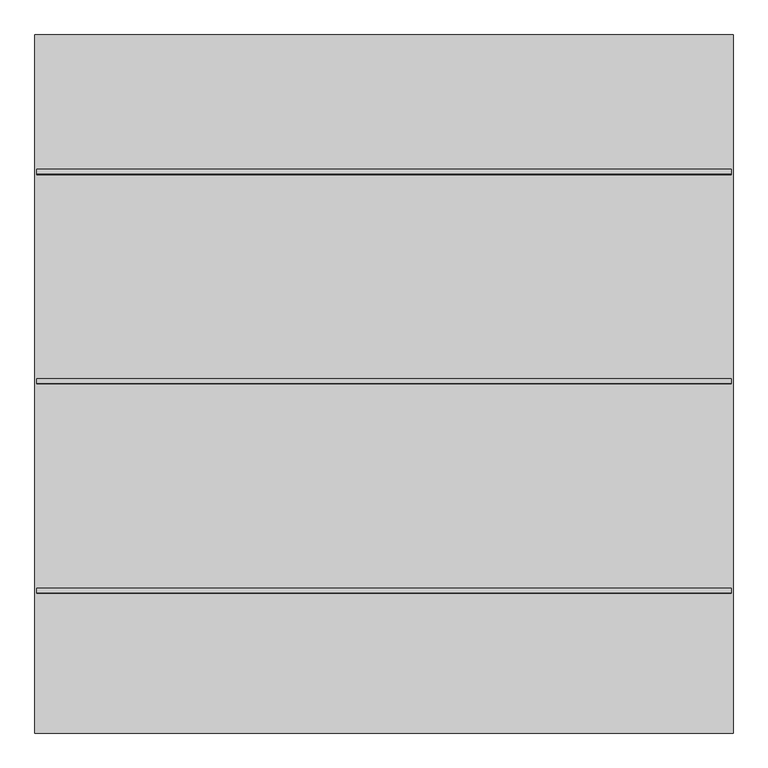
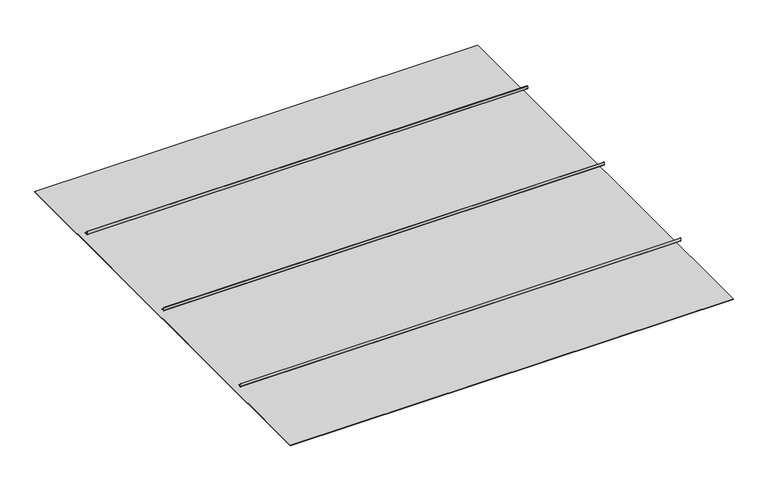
"""IFC4 building model written with IfcOpenShell, lengths in millimetres: proxy geometry, durlum_LOOP_TYPE3 : durlum_LOOP_TYPE3."""

from ifc_helpers import new_model, si_unit, point, frame, frame_2d, origin, place, context, project, spatial, polyline, circle_curve, trimmed, segment, composite_curve, outline, extrude, source, transform, mapped, element, save


def generic_models_72de8b23(model_context):
    return source(origin(), model_context, "Body", "SweptSolid", [
        extrude(outline(composite_curve([segment(polyline([(2.0, 1804.9), (2.0, 1779.0)]), True, "CONTINUOUS"), segment(trimmed(circle_curve(frame_2d((4.0, 1779.0)), 2.0), [point((2.0, 1779.0))], [point((4.0, 1777.0))], True, "CARTESIAN"), True, "CONTINUOUS"), segment(polyline([(4.0, 1777.0), (29.9, 1777.0), (29.9, 1775.0), (4.0, 1775.0)]), True, "CONTINUOUS"), segment(trimmed(circle_curve(frame_2d((4.0, 1779.0)), 4.0), [point((4.0, 1775.0))], [point((0.0, 1779.0))], False, "CARTESIAN"), True, "CONTINUOUS"), segment(polyline([(0.0, 1779.0), (0.0, 1804.9), (2.0, 1804.9)]), True, "CONTINUOUS")], self_intersect=False)), frame((-1990.0, 0.0, 0.0), z_axis=(1.0, 0.0, 0.0), x_axis=(0.0, 1.0, 0.0)), (0.0, 0.0, 1.0), 3980.0),
        extrude(outline(composite_curve([segment(polyline([(1202.0, 1804.9), (1202.0, 1779.0)]), True, "CONTINUOUS"), segment(trimmed(circle_curve(frame_2d((1204.0, 1779.0)), 2.0), [point((1202.0, 1779.0))], [point((1204.0, 1777.0))], True, "CARTESIAN"), True, "CONTINUOUS"), segment(polyline([(1204.0, 1777.0), (1229.9, 1777.0), (1229.9, 1775.0), (1204.0, 1775.0)]), True, "CONTINUOUS"), segment(trimmed(circle_curve(frame_2d((1204.0, 1779.0)), 4.0), [point((1204.0, 1775.0))], [point((1200.0, 1779.0))], False, "CARTESIAN"), True, "CONTINUOUS"), segment(polyline([(1200.0, 1779.0), (1200.0, 1804.9), (1202.0, 1804.9)]), True, "CONTINUOUS")], self_intersect=False)), frame((-1990.0, 0.0, 0.0), z_axis=(1.0, 0.0, 0.0), x_axis=(0.0, 1.0, 0.0)), (0.0, 0.0, 1.0), 3980.0),
        extrude(outline(composite_curve([segment(polyline([(-1198.0, 1804.9), (-1198.0, 1779.0)]), True, "CONTINUOUS"), segment(trimmed(circle_curve(frame_2d((-1196.0, 1779.0)), 2.0), [point((-1198.0, 1779.0))], [point((-1196.0, 1777.0))], True, "CARTESIAN"), True, "CONTINUOUS"), segment(polyline([(-1196.0, 1777.0), (-1170.1, 1777.0), (-1170.1, 1775.0), (-1196.0, 1775.0)]), True, "CONTINUOUS"), segment(trimmed(circle_curve(frame_2d((-1196.0, 1779.0)), 4.0), [point((-1196.0, 1775.0))], [point((-1200.0, 1779.0))], False, "CARTESIAN"), True, "CONTINUOUS"), segment(polyline([(-1200.0, 1779.0), (-1200.0, 1804.9), (-1198.0, 1804.9)]), True, "CONTINUOUS")], self_intersect=False)), frame((-1990.0, 0.0, 0.0), z_axis=(1.0, 0.0, 0.0), x_axis=(0.0, 1.0, 0.0)), (0.0, 0.0, 1.0), 3980.0),
        extrude(outline(polyline([(2000.0, 2000.0), (2000.0, -2000.0), (-2000.0, -2000.0), (-2000.0, 2000.0), (2000.0, 2000.0)])), frame((0.0, 0.0, 1700.0), z_axis=(0.0, 0.0, 1.0), x_axis=(1.0, 0.0, 0.0)), (0.0, 0.0, 1.0), 5.0),
    ])


if __name__ == "__main__":
    model = new_model("IFC4")
    model_context = context("Model", 3, world=origin())
    ifc_project = project(units=[si_unit("LENGTHUNIT", "METRE", prefix="MILLI")], contexts=[model_context])
    site = spatial("IfcSite", under=ifc_project)
    building = spatial("IfcBuilding", under=site)
    placement = place(None, origin())
    generic_models_shape = generic_models_72de8b23(model_context)
    element("IfcBuildingElementProxy", 1, Name="durlum_LOOP_TYPE3 : durlum_LOOP_TYPE3", ObjectType="durlum_LOOP_TYPE3 : durlum_LOOP_TYPE3", at=placement, inside=building, context=model_context, shape_type="MappedRepresentation", body=[
        mapped(generic_models_shape, transform((0.0, 0.0, 0.0), x_axis=(1.0, 0.0, 0.0), y_axis=(0.0, 1.0, 0.0), z_axis=(0.0, 0.0, 1.0))),
    ])
    save(model, "model.ifc")
